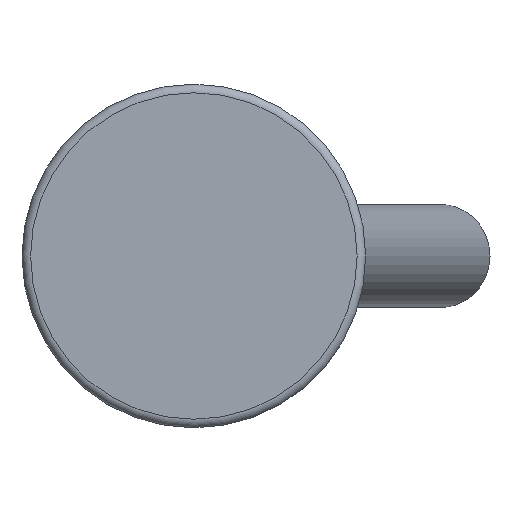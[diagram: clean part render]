
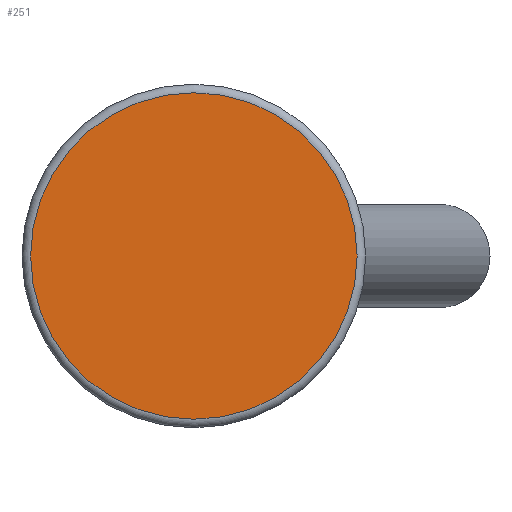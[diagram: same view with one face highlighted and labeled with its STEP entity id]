
A CAD part, front view. The second image highlights one B-rep face of the part: STEP entity #251.
In plain terms, the highlighted planar face has unit normal (0, -1, 0).
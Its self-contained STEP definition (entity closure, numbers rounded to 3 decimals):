
#251 = ADVANCED_FACE( '', ( #477 ), #478, .F. );
#477 = FACE_OUTER_BOUND( '', #677, .T. );
#478 = PLANE( '', #678 );
#677 = EDGE_LOOP( '', ( #1103 ) );
#678 = AXIS2_PLACEMENT_3D( '', #1104, #1105, #1106 );
#1103 = ORIENTED_EDGE( '', *, *, #1125, .T. );
#1104 = CARTESIAN_POINT( '', ( 19., 0., 0. ) );
#1105 = DIRECTION( '', ( 0., 1., 0. ) );
#1106 = DIRECTION( '', ( 0., 0., 1. ) );
#1125 = EDGE_CURVE( '', #1296, #1296, #1297, .T. );
#1296 = VERTEX_POINT( '', #1564 );
#1297 = CIRCLE( '', #1565, 19. );
#1564 = CARTESIAN_POINT( '', ( 0., 0., -19. ) );
#1565 = AXIS2_PLACEMENT_3D( '', #2001, #2002, #2003 );
#2001 = CARTESIAN_POINT( '', ( 0., 0., 0. ) );
#2002 = DIRECTION( '', ( 0., -1., 0. ) );
#2003 = DIRECTION( '', ( 0., 0., -1. ) );
